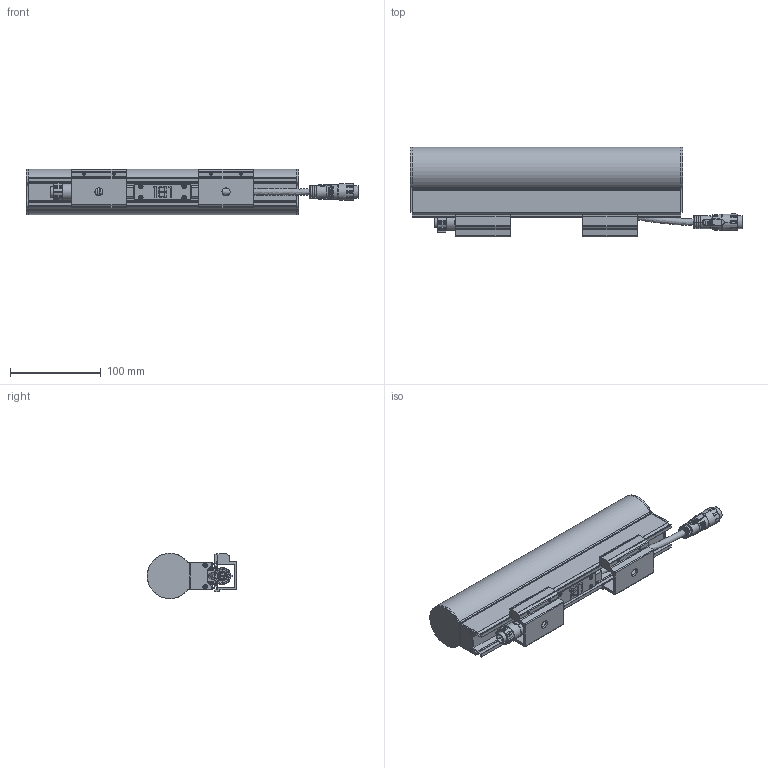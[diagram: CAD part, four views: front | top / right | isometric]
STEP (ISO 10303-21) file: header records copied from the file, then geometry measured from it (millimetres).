
FILE_DESCRIPTION (( 'STEP AP214' ), '1' );
FILE_NAME ('E series 2 Tube L300.STEP', '2025-11-24T13:38:17', ( '' ), ( '' ), 'SwSTEP 2.0', 'SolidWorks 2025', '' );
FILE_SCHEMA (( 'AUTOMOTIVE_DESIGN' ));
Length unit declared in the file: millimetre
Products named in the file (10): Part53^E series 2; M16 5p Female; Counter sunk screw torx_M3x16; E series 2 with round cover body_300mm; Counter sunk screw torx_M2.5x16; E series 2 mounting clip bottom; E series 2 with dome cover body and bare config_Bare 300mm; E series 2 Tube L300; E series 2 mounting clip top; M16 5p Male
Assembly tree (25 placements, depth 2):
  E series 2 Tube L300
    E series 2 with dome cover body and bare config_Bare 300mm
    Counter sunk screw torx_M2.5x16  x12
    E series 2 mounting clip bottom  x2
    E series 2 mounting clip top  x2
    Counter sunk screw torx_M3x16  x4
    E series 2 with round cover body_300mm
    M16 5p Female
    M16 5p Male
    Part53^E series 2
Bounding box: 365.55 x 98.61 x 49.96 mm (x, y, z)
Volume: 842205.8 mm3; surface area: 143736.4 mm2
Topology: 31 solids, 33 shells, 1597 faces, 3991 edges, 2516 vertices
Faces by surface type: cylinder 680, plane 536, torus 131, bspline 116, cone 108, sphere 26
Full cylindrical faces by diameter (mm): 2.4 x2, 2.5 x12, 3 x4, 4.5 x12, 5.81 x4, 9.2 x1, 11.1 x1, 14.25 x1, 14.3 x1, 18 x1
Entity records: 55838 total; most frequent: CARTESIAN_POINT 18530, ORIENTED_EDGE 6124, DIRECTION 5734, EDGE_CURVE 3062, AXIS2_PLACEMENT_3D 2244, VERTEX_POINT 1940, EDGE_LOOP 1382, FACE_OUTER_BOUND 1266
